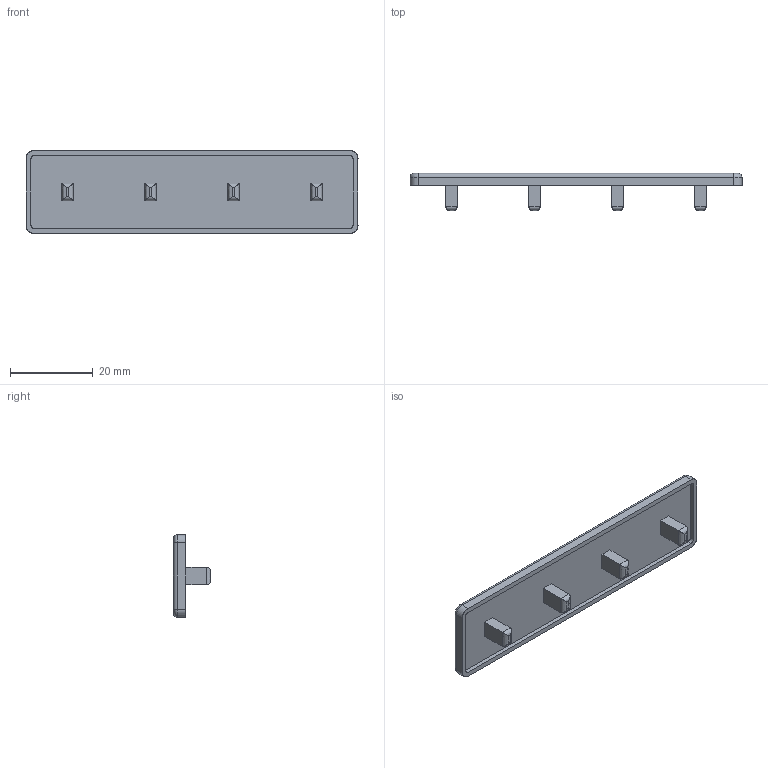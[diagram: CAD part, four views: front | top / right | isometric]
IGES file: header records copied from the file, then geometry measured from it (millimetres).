
Start section: SolidWorks IGES file using analytic representation for surfaces
Global section: file name: C:\Users\admin\Desktop\IGES\J2C8.igs; native system: SolidWorks 2014; preprocessor: SolidWorks 2014; author: admin_pc; date: 170524.165209; units: millimetre
Bounding box: 80 x 9 x 20 mm (x, y, z)
Surface area: 4247.5 mm2 (no closed solid volume)
Topology: 0 solids, 0 shells, 63 faces, 496 edges, 496 vertices
Faces by surface type: bspline 35, revolution 28
